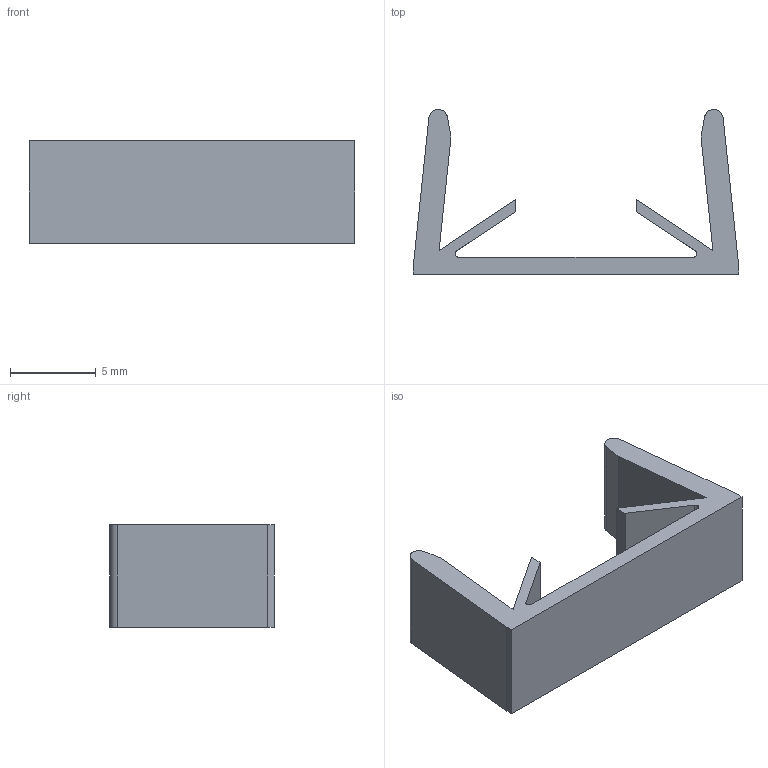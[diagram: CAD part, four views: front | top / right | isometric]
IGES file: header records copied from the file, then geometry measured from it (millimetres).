
Start section: SolidWorks IGES file using analytic representation for surfaces
Global section: file name: C:\Users\admin\Desktop\IGES\J3NH.igs; native system: SolidWorks 2014; preprocessor: SolidWorks 2014; author: admin_pc; date: 170524.165536; units: millimetre
Bounding box: 19 x 9.62 x 6 mm (x, y, z)
Surface area: 645.6 mm2 (no closed solid volume)
Topology: 0 solids, 0 shells, 23 faces, 176 edges, 176 vertices
Faces by surface type: bspline 18, revolution 5
